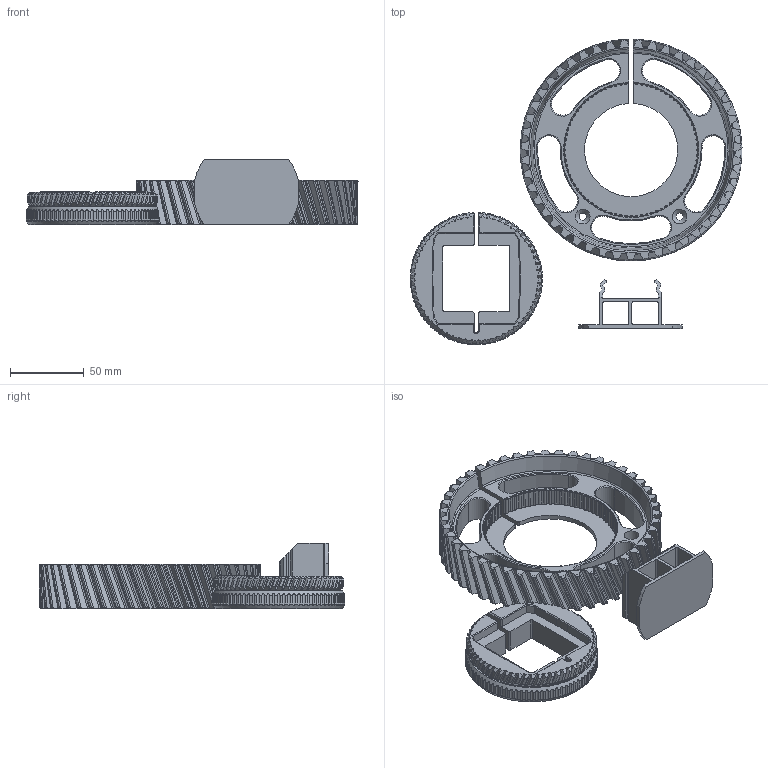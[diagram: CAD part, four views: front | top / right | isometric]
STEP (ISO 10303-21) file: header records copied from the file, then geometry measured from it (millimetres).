
FILE_DESCRIPTION (( 'STEP AP214' ), '1' );
FILE_NAME ('Robot Hand Part 3_Wall mount.STEP', '2024-08-27T14:04:37', ( '' ), ( '' ), 'SwSTEP 2.0', 'SolidWorks 2021', '' );
FILE_SCHEMA (( 'AUTOMOTIVE_DESIGN' ));
Length unit declared in the file: millimetre
Products named in the file (4): Gear wall mount; Wall mount counterpart; Gear wall mount Part 2; Robot Hand Part 3_Wall mount
Assembly tree (3 placements, depth 2):
  Robot Hand Part 3_Wall mount
    Gear wall mount
    Wall mount counterpart
    Gear wall mount Part 2
Bounding box: 224.49 x 206.79 x 44 mm (x, y, z)
Volume: 240719.4 mm3; surface area: 101925 mm2
Topology: 3 solids, 3 shells, 1476 faces, 4194 edges, 2724 vertices
Faces by surface type: cylinder 592, cone 366, plane 359, bspline 157, torus 2
Full cylindrical faces by diameter (mm): 5 x2, 10 x2
Entity records: 54762 total; most frequent: CARTESIAN_POINT 19351, ORIENTED_EDGE 8368, DIRECTION 6552, EDGE_CURVE 4184, VERTEX_POINT 2720, AXIS2_PLACEMENT_3D 2575, EDGE_LOOP 1500, FACE_OUTER_BOUND 1480
